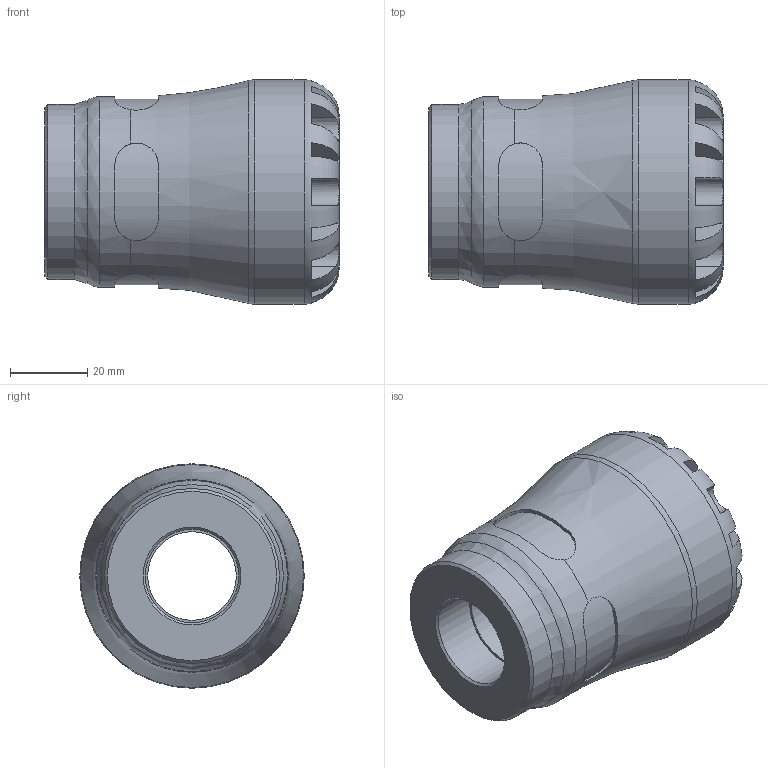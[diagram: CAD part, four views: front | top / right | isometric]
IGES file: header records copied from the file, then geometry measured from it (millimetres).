
Global section: file name: 1003G0032007_1903G0032007.ipt; native system: Autodesk Inventor 2015; preprocessor: unknown; author: KIM; date: 20190127.091353; units: millimetre
Bounding box: 76 x 58 x 58 mm (x, y, z)
Volume: 105239.8 mm3; surface area: 24033.7 mm2
Topology: 1 solids, 1 shells, 104 faces, 279 edges, 180 vertices
Faces by surface type: plane 61, revolution 27, cylinder 15, cone 1
Full cylindrical faces by diameter (mm): 45.24 x1, 49.3 x1, 58 x1
